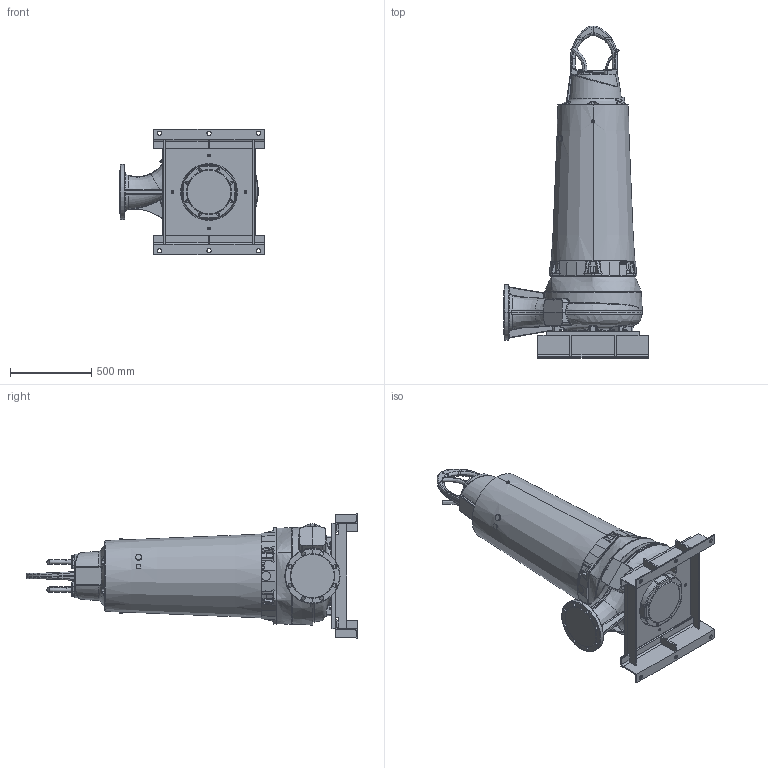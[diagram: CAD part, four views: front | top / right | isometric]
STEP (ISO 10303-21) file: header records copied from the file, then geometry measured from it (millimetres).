
FILE_DESCRIPTION (( 'STEP AP214' ), '1' );
FILE_NAME ('PE5_XFP200M-CH2_DRY_B_NG2.STEP', '2017-03-14T06:08:31', ( '' ), ( '' ), 'SwSTEP 2.0', 'SolidWorks 2017', '' );
FILE_SCHEMA (( 'AUTOMOTIVE_DESIGN' ));
Length unit declared in the file: millimetre
Products named in the file (1): PE5_XFP200M-CH2_DRY_B_NG2
Bounding box: 890 x 2045.97 x 775 mm (x, y, z)
Volume: 320235735.7 mm3; surface area: 4937254.6 mm2
Topology: 3 solids, 4 shells, 1643 faces, 4166 edges, 2483 vertices
Faces by surface type: bspline 573, plane 358, cylinder 349, cone 184, torus 158, sphere 21
Entity records: 133107 total; most frequent: CARTESIAN_POINT 80665, ORIENTED_EDGE 8174, DIRECTION 5846, EDGE_CURVE 4087, VERTEX_POINT 2483, AXIS2_PLACEMENT_3D 2342, EDGE_LOOP 1738, UNCERTAINTY_MEASURE_WITH_UNIT 1648
